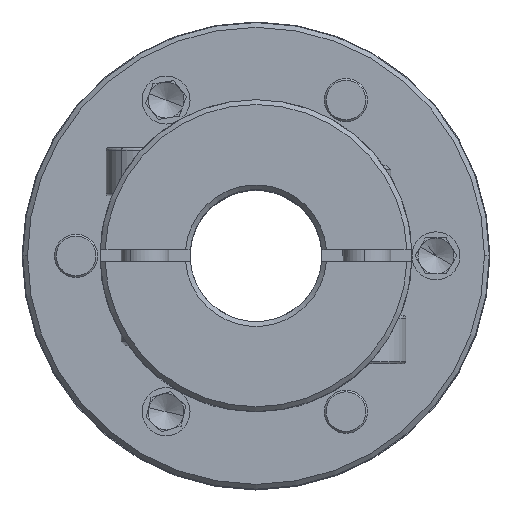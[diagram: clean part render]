
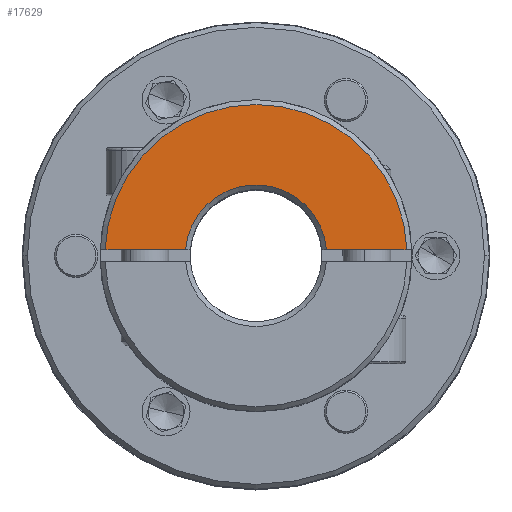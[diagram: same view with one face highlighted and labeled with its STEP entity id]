
A CAD part, top view. The second image highlights one B-rep face of the part: STEP entity #17629.
In plain terms, the highlighted planar face has unit normal (0, 0, 1).
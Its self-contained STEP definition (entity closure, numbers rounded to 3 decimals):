
#2 = EDGE_CURVE ( 'NONE', #7573, #2167, #4038, .T. ) ;
#59 = DIRECTION ( 'NONE',  ( 1., 0., 0. ) ) ;
#1225 = DIRECTION ( 'NONE',  ( 0., 0., -1. ) ) ;
#1734 = DIRECTION ( 'NONE',  ( 0., 0., 1. ) ) ;
#2167 = VERTEX_POINT ( 'NONE', #17863 ) ;
#2283 = AXIS2_PLACEMENT_3D ( 'NONE', #6969, #15869, #18920 ) ;
#2733 = CARTESIAN_POINT ( 'NONE',  ( 25.18, 1., 33.85 ) ) ;
#2968 = CARTESIAN_POINT ( 'NONE',  ( -39., 1., 33.85 ) ) ;
#4038 = CIRCLE ( 'NONE', #11201, 11.8 ) ;
#4175 = CARTESIAN_POINT ( 'NONE',  ( 0., 0., 33.85 ) ) ;
#4376 = DIRECTION ( 'NONE',  ( 1., 0., 0. ) ) ;
#4411 = CARTESIAN_POINT ( 'NONE',  ( 0., 0., 33.85 ) ) ;
#4553 = VECTOR ( 'NONE', #19072, 1000. ) ;
#5282 = FACE_OUTER_BOUND ( 'NONE', #8844, .T. ) ;
#6404 = CARTESIAN_POINT ( 'NONE',  ( -25.18, 1., 33.85 ) ) ;
#6969 = CARTESIAN_POINT ( 'NONE',  ( 0., 0., 33.85 ) ) ;
#7177 = ORIENTED_EDGE ( 'NONE', *, *, #2, .T. ) ;
#7573 = VERTEX_POINT ( 'NONE', #11643 ) ;
#8275 = EDGE_CURVE ( 'NONE', #17783, #10556, #14739, .T. ) ;
#8844 = EDGE_LOOP ( 'NONE', ( #13187, #10026, #7177, #11565 ) ) ;
#9900 = PLANE ( 'NONE',  #2283 ) ;
#9947 = LINE ( 'NONE', #15704, #4553 ) ;
#10026 = ORIENTED_EDGE ( 'NONE', *, *, #10780, .T. ) ;
#10556 = VERTEX_POINT ( 'NONE', #6404 ) ;
#10685 = EDGE_CURVE ( 'NONE', #2167, #17783, #9947, .T. ) ;
#10780 = EDGE_CURVE ( 'NONE', #10556, #7573, #13446, .T. ) ;
#11201 = AXIS2_PLACEMENT_3D ( 'NONE', #4175, #1225, #4376 ) ;
#11444 = VECTOR ( 'NONE', #15006, 1000. ) ;
#11565 = ORIENTED_EDGE ( 'NONE', *, *, #10685, .T. ) ;
#11643 = CARTESIAN_POINT ( 'NONE',  ( -11.758, 1., 33.85 ) ) ;
#12539 = AXIS2_PLACEMENT_3D ( 'NONE', #4411, #1734, #59 ) ;
#13187 = ORIENTED_EDGE ( 'NONE', *, *, #8275, .T. ) ;
#13446 = LINE ( 'NONE', #2968, #11444 ) ;
#14739 = CIRCLE ( 'NONE', #12539, 25.2 ) ;
#15006 = DIRECTION ( 'NONE',  ( 1., 0., 0. ) ) ;
#15704 = CARTESIAN_POINT ( 'NONE',  ( -39., 1., 33.85 ) ) ;
#15869 = DIRECTION ( 'NONE',  ( 0., 0., 1. ) ) ;
#17629 = ADVANCED_FACE ( 'NONE', ( #5282 ), #9900, .T. ) ;
#17783 = VERTEX_POINT ( 'NONE', #2733 ) ;
#17863 = CARTESIAN_POINT ( 'NONE',  ( 11.758, 1., 33.85 ) ) ;
#18920 = DIRECTION ( 'NONE',  ( 1., 0., 0. ) ) ;
#19072 = DIRECTION ( 'NONE',  ( 1., 0., 0. ) ) ;
